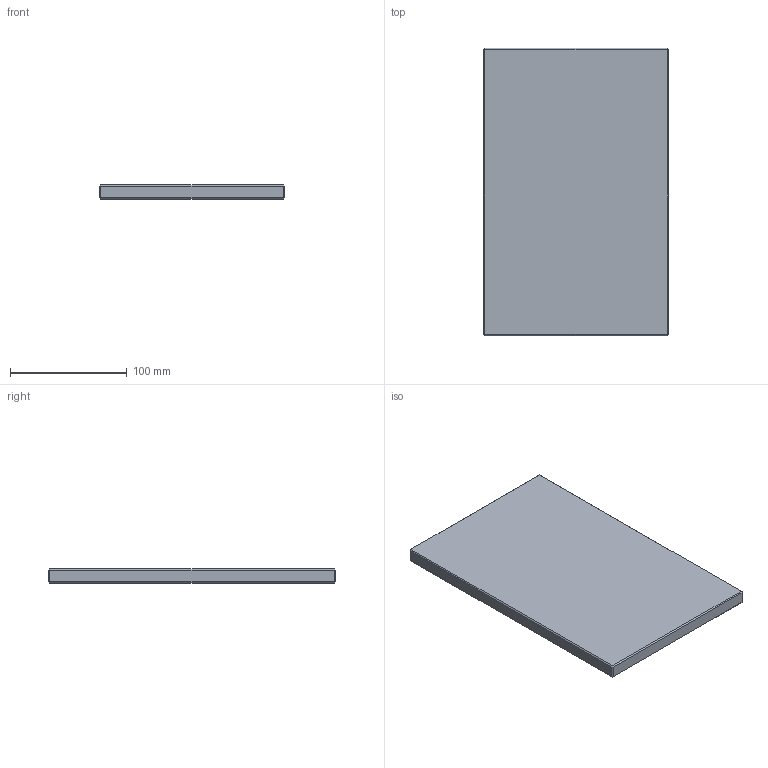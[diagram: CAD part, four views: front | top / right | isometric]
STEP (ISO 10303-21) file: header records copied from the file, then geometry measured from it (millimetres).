
FILE_DESCRIPTION (( 'STEP AP214' ), '1' );
FILE_NAME ('CPE-P-246x246x12.STEP', '2021-03-25T13:38:16', ( '' ), ( '' ), 'SwSTEP 2.0', 'SolidWorks 2018', '' );
FILE_SCHEMA (( 'AUTOMOTIVE_DESIGN' ));
Length unit declared in the file: millimetre
Products named in the file (1): CPE-P-246x246x12
Bounding box: 158 x 246 x 12 mm (x, y, z)
Volume: 465589.3 mm3; surface area: 86454.2 mm2
Topology: 1 solids, 1 shells, 26 faces, 48 edges, 24 vertices
Faces by surface type: plane 26
Entity records: 634 total; most frequent: DIRECTION 102, CARTESIAN_POINT 99, ORIENTED_EDGE 96, LINE 48, VECTOR 48, EDGE_CURVE 48, AXIS2_PLACEMENT_3D 27, FACE_OUTER_BOUND 26
